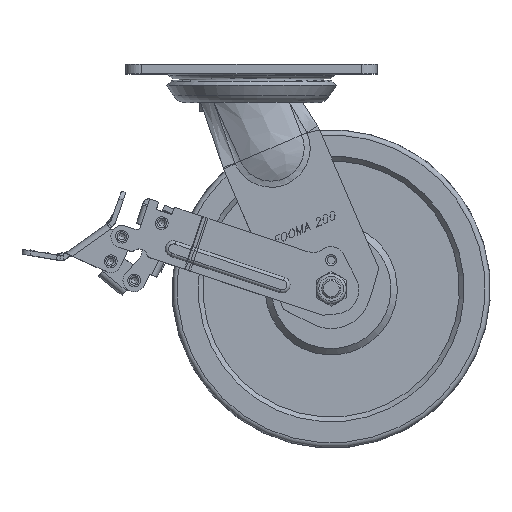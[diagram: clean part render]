
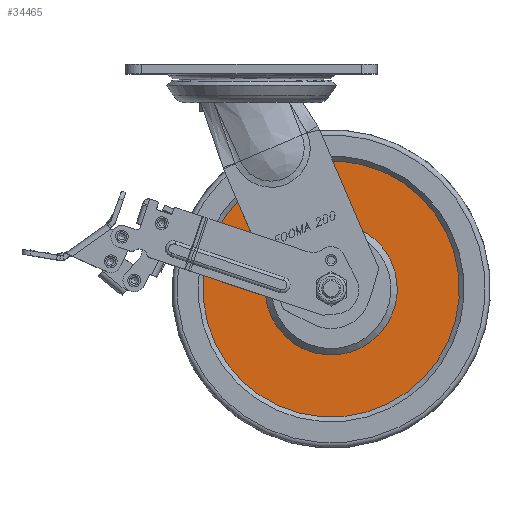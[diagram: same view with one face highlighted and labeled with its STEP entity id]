
A CAD part, top view. The second image highlights one B-rep face of the part: STEP entity #34465.
In plain terms, the highlighted planar face has unit normal (0, 0, 1).
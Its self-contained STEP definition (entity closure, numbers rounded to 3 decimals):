
#8163=FACE_BOUND('',#11983,.T.);
#9957=FACE_OUTER_BOUND('',#11982,.T.);
#11982=EDGE_LOOP('',(#29666));
#11983=EDGE_LOOP('',(#29667));
#12800=CIRCLE('',#37074,80.5);
#12801=CIRCLE('',#37076,41.5);
#15833=VERTEX_POINT('',#59010);
#15834=VERTEX_POINT('',#59013);
#20451=EDGE_CURVE('',#15833,#15833,#12800,.T.);
#20452=EDGE_CURVE('',#15834,#15834,#12801,.T.);
#29666=ORIENTED_EDGE('',*,*,#20451,.T.);
#29667=ORIENTED_EDGE('',*,*,#20452,.F.);
#30889=PLANE('',#37075);
#34465=ADVANCED_FACE('',(#9957,#8163),#30889,.T.);
#37074=AXIS2_PLACEMENT_3D('',#59011,#45742,#45743);
#37075=AXIS2_PLACEMENT_3D('',#59012,#45744,#45745);
#37076=AXIS2_PLACEMENT_3D('',#59014,#45746,#45747);
#45742=DIRECTION('center_axis',(0.,0.,
1.));
#45743=DIRECTION('ref_axis',(0.997,-0.075,0.));
#45744=DIRECTION('center_axis',(0.,0.,
1.));
#45745=DIRECTION('ref_axis',(0.997,-0.075,0.));
#45746=DIRECTION('center_axis',(0.,0.,
1.));
#45747=DIRECTION('ref_axis',(0.997,-0.075,0.));
#59010=CARTESIAN_POINT('',(58.642,-51.334,21.));
#59011=CARTESIAN_POINT('Origin',(52.63,-131.609,21.));
#59012=CARTESIAN_POINT('Origin',(55.73,-90.225,21.));
#59013=CARTESIAN_POINT('',(55.73,-90.225,21.));
#59014=CARTESIAN_POINT('Origin',(52.63,-131.609,21.));
